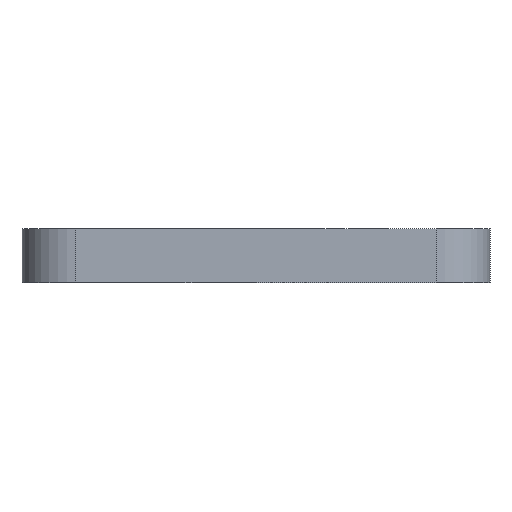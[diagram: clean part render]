
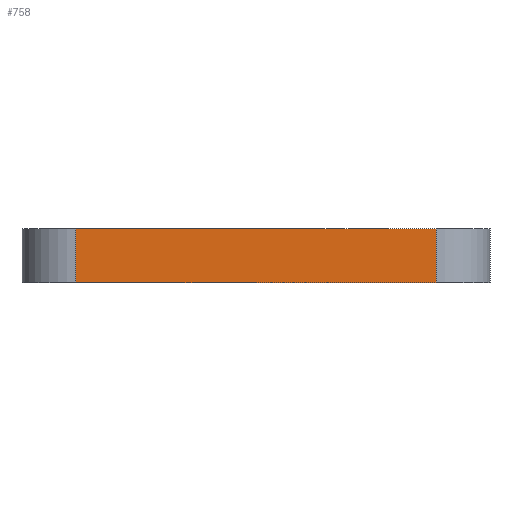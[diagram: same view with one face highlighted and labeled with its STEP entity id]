
A CAD part, left-side view. The second image highlights one B-rep face of the part: STEP entity #758.
In plain terms, the highlighted planar face has unit normal (-1, 0, 0).
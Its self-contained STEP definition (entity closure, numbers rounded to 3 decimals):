
#44 = PLANE('',#45);
#45 = AXIS2_PLACEMENT_3D('',#46,#47,#48);
#46 = CARTESIAN_POINT('',(0.,0.,0.));
#47 = DIRECTION('',(0.,0.,1.));
#48 = DIRECTION('',(1.,0.,-0.));
#72 = CYLINDRICAL_SURFACE('',#73,3.);
#73 = AXIS2_PLACEMENT_3D('',#74,#75,#76);
#74 = CARTESIAN_POINT('',(-12.,-10.,0.));
#75 = DIRECTION('',(0.,0.,1.));
#76 = DIRECTION('',(0.,-1.,0.));
#100 = PLANE('',#101);
#101 = AXIS2_PLACEMENT_3D('',#102,#103,#104);
#102 = CARTESIAN_POINT('',(0.,0.,3.));
#103 = DIRECTION('',(0.,0.,1.));
#104 = DIRECTION('',(1.,0.,-0.));
#252 = VERTEX_POINT('',#253);
#253 = CARTESIAN_POINT('',(-15.,10.,3.));
#268 = CYLINDRICAL_SURFACE('',#269,3.);
#269 = AXIS2_PLACEMENT_3D('',#270,#271,#272);
#270 = CARTESIAN_POINT('',(-12.,10.,0.));
#271 = DIRECTION('',(0.,0.,1.));
#272 = DIRECTION('',(-0.,1.,0.));
#280 = EDGE_CURVE('',#252,#281,#283,.T.);
#281 = VERTEX_POINT('',#282);
#282 = CARTESIAN_POINT('',(-15.,-10.,3.));
#283 = SURFACE_CURVE('',#284,(#288,#295),.PCURVE_S1.);
#284 = LINE('',#285,#286);
#285 = CARTESIAN_POINT('',(-15.,13.,3.));
#286 = VECTOR('',#287,1.);
#287 = DIRECTION('',(0.,-1.,0.));
#288 = PCURVE('',#100,#289);
#289 = DEFINITIONAL_REPRESENTATION('',(#290),#294);
#290 = LINE('',#291,#292);
#291 = CARTESIAN_POINT('',(-15.,13.));
#292 = VECTOR('',#293,1.);
#293 = DIRECTION('',(0.,-1.));
#294 = ( GEOMETRIC_REPRESENTATION_CONTEXT(2) 
PARAMETRIC_REPRESENTATION_CONTEXT() REPRESENTATION_CONTEXT('2D SPACE',''
  ) );
#295 = PCURVE('',#296,#301);
#296 = PLANE('',#297);
#297 = AXIS2_PLACEMENT_3D('',#298,#299,#300);
#298 = CARTESIAN_POINT('',(-15.,13.,0.));
#299 = DIRECTION('',(1.,0.,-0.));
#300 = DIRECTION('',(0.,-1.,0.));
#301 = DEFINITIONAL_REPRESENTATION('',(#302),#306);
#302 = LINE('',#303,#304);
#303 = CARTESIAN_POINT('',(0.,-3.));
#304 = VECTOR('',#305,1.);
#305 = DIRECTION('',(1.,0.));
#306 = ( GEOMETRIC_REPRESENTATION_CONTEXT(2) 
PARAMETRIC_REPRESENTATION_CONTEXT() REPRESENTATION_CONTEXT('2D SPACE',''
  ) );
#758 = ADVANCED_FACE('',(#759),#296,.F.);
#759 = FACE_BOUND('',#760,.F.);
#760 = EDGE_LOOP('',(#761,#786,#807,#808));
#761 = ORIENTED_EDGE('',*,*,#762,.F.);
#762 = EDGE_CURVE('',#763,#765,#767,.T.);
#763 = VERTEX_POINT('',#764);
#764 = CARTESIAN_POINT('',(-15.,10.,0.));
#765 = VERTEX_POINT('',#766);
#766 = CARTESIAN_POINT('',(-15.,-10.,0.));
#767 = SURFACE_CURVE('',#768,(#772,#779),.PCURVE_S1.);
#768 = LINE('',#769,#770);
#769 = CARTESIAN_POINT('',(-15.,13.,0.));
#770 = VECTOR('',#771,1.);
#771 = DIRECTION('',(0.,-1.,0.));
#772 = PCURVE('',#296,#773);
#773 = DEFINITIONAL_REPRESENTATION('',(#774),#778);
#774 = LINE('',#775,#776);
#775 = CARTESIAN_POINT('',(0.,0.));
#776 = VECTOR('',#777,1.);
#777 = DIRECTION('',(1.,0.));
#778 = ( GEOMETRIC_REPRESENTATION_CONTEXT(2) 
PARAMETRIC_REPRESENTATION_CONTEXT() REPRESENTATION_CONTEXT('2D SPACE',''
  ) );
#779 = PCURVE('',#44,#780);
#780 = DEFINITIONAL_REPRESENTATION('',(#781),#785);
#781 = LINE('',#782,#783);
#782 = CARTESIAN_POINT('',(-15.,13.));
#783 = VECTOR('',#784,1.);
#784 = DIRECTION('',(0.,-1.));
#785 = ( GEOMETRIC_REPRESENTATION_CONTEXT(2) 
PARAMETRIC_REPRESENTATION_CONTEXT() REPRESENTATION_CONTEXT('2D SPACE',''
  ) );
#786 = ORIENTED_EDGE('',*,*,#787,.T.);
#787 = EDGE_CURVE('',#763,#252,#788,.T.);
#788 = SURFACE_CURVE('',#789,(#793,#800),.PCURVE_S1.);
#789 = LINE('',#790,#791);
#790 = CARTESIAN_POINT('',(-15.,10.,0.));
#791 = VECTOR('',#792,1.);
#792 = DIRECTION('',(0.,0.,1.));
#793 = PCURVE('',#296,#794);
#794 = DEFINITIONAL_REPRESENTATION('',(#795),#799);
#795 = LINE('',#796,#797);
#796 = CARTESIAN_POINT('',(3.,0.));
#797 = VECTOR('',#798,1.);
#798 = DIRECTION('',(0.,-1.));
#799 = ( GEOMETRIC_REPRESENTATION_CONTEXT(2) 
PARAMETRIC_REPRESENTATION_CONTEXT() REPRESENTATION_CONTEXT('2D SPACE',''
  ) );
#800 = PCURVE('',#268,#801);
#801 = DEFINITIONAL_REPRESENTATION('',(#802),#806);
#802 = LINE('',#803,#804);
#803 = CARTESIAN_POINT('',(1.571,0.));
#804 = VECTOR('',#805,1.);
#805 = DIRECTION('',(0.,1.));
#806 = ( GEOMETRIC_REPRESENTATION_CONTEXT(2) 
PARAMETRIC_REPRESENTATION_CONTEXT() REPRESENTATION_CONTEXT('2D SPACE',''
  ) );
#807 = ORIENTED_EDGE('',*,*,#280,.T.);
#808 = ORIENTED_EDGE('',*,*,#809,.F.);
#809 = EDGE_CURVE('',#765,#281,#810,.T.);
#810 = SURFACE_CURVE('',#811,(#815,#822),.PCURVE_S1.);
#811 = LINE('',#812,#813);
#812 = CARTESIAN_POINT('',(-15.,-10.,0.));
#813 = VECTOR('',#814,1.);
#814 = DIRECTION('',(0.,0.,1.));
#815 = PCURVE('',#296,#816);
#816 = DEFINITIONAL_REPRESENTATION('',(#817),#821);
#817 = LINE('',#818,#819);
#818 = CARTESIAN_POINT('',(23.,0.));
#819 = VECTOR('',#820,1.);
#820 = DIRECTION('',(0.,-1.));
#821 = ( GEOMETRIC_REPRESENTATION_CONTEXT(2) 
PARAMETRIC_REPRESENTATION_CONTEXT() REPRESENTATION_CONTEXT('2D SPACE',''
  ) );
#822 = PCURVE('',#72,#823);
#823 = DEFINITIONAL_REPRESENTATION('',(#824),#828);
#824 = LINE('',#825,#826);
#825 = CARTESIAN_POINT('',(-1.571,0.));
#826 = VECTOR('',#827,1.);
#827 = DIRECTION('',(-0.,1.));
#828 = ( GEOMETRIC_REPRESENTATION_CONTEXT(2) 
PARAMETRIC_REPRESENTATION_CONTEXT() REPRESENTATION_CONTEXT('2D SPACE',''
  ) );
